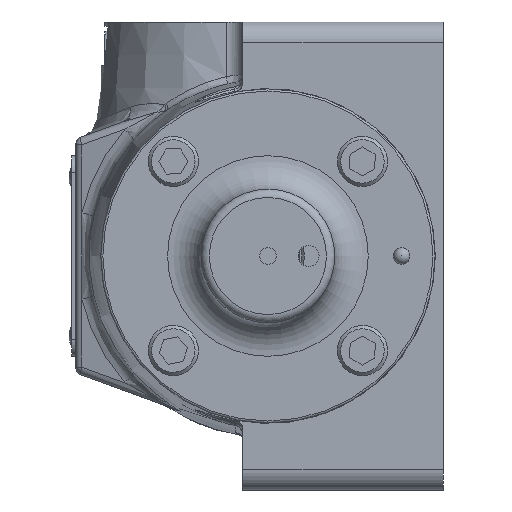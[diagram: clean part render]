
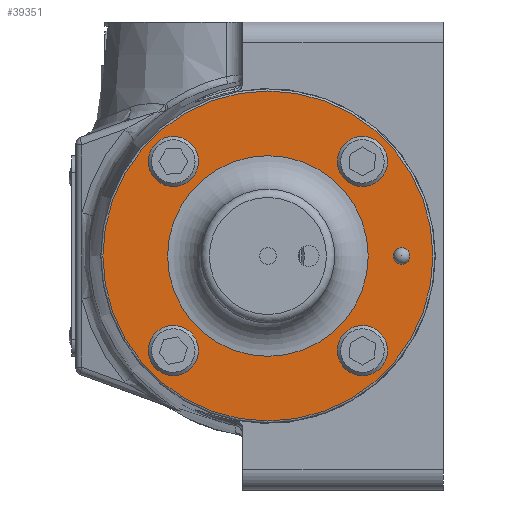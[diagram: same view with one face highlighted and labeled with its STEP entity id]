
A CAD part, left-side view. The second image highlights one B-rep face of the part: STEP entity #39351.
In plain terms, the highlighted planar face has unit normal (-1, 0, 0).
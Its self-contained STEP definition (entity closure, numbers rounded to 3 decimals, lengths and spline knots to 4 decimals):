
#2393=FACE_BOUND('',#6498,.T.);
#2394=FACE_BOUND('',#6499,.T.);
#2395=FACE_BOUND('',#6500,.T.);
#2396=FACE_BOUND('',#6501,.T.);
#2397=FACE_BOUND('',#6502,.T.);
#2398=FACE_BOUND('',#6503,.T.);
#2775=PLANE('',#42373);
#4101=FACE_OUTER_BOUND('',#6497,.T.);
#6497=EDGE_LOOP('',(#27910));
#6498=EDGE_LOOP('',(#27911));
#6499=EDGE_LOOP('',(#27912));
#6500=EDGE_LOOP('',(#27913));
#6501=EDGE_LOOP('',(#27914));
#6502=EDGE_LOOP('',(#27915));
#6503=EDGE_LOOP('',(#27916));
#8899=CIRCLE('',#42301,1.905);
#8908=CIRCLE('',#42315,3.1353);
#8930=CIRCLE('',#42363,0.1588);
#8935=CIRCLE('',#42374,0.4763);
#8936=CIRCLE('',#42375,0.4763);
#8937=CIRCLE('',#42376,0.4763);
#8938=CIRCLE('',#42377,0.4763);
#16159=VERTEX_POINT('',#66143);
#16166=VERTEX_POINT('',#66166);
#16206=VERTEX_POINT('',#66294);
#16212=VERTEX_POINT('',#66315);
#16213=VERTEX_POINT('',#66317);
#16214=VERTEX_POINT('',#66319);
#16215=VERTEX_POINT('',#66321);
#20388=EDGE_CURVE('',#16159,#16159,#8899,.T.);
#20399=EDGE_CURVE('',#16166,#16166,#8908,.T.);
#20460=EDGE_CURVE('',#16206,#16206,#8930,.T.);
#20469=EDGE_CURVE('',#16212,#16212,#8935,.T.);
#20470=EDGE_CURVE('',#16213,#16213,#8936,.T.);
#20471=EDGE_CURVE('',#16214,#16214,#8937,.T.);
#20472=EDGE_CURVE('',#16215,#16215,#8938,.T.);
#27910=ORIENTED_EDGE('',*,*,#20399,.F.);
#27911=ORIENTED_EDGE('',*,*,#20469,.T.);
#27912=ORIENTED_EDGE('',*,*,#20470,.T.);
#27913=ORIENTED_EDGE('',*,*,#20471,.T.);
#27914=ORIENTED_EDGE('',*,*,#20472,.T.);
#27915=ORIENTED_EDGE('',*,*,#20460,.T.);
#27916=ORIENTED_EDGE('',*,*,#20388,.F.);
#39351=ADVANCED_FACE('',(#4101,#2393,#2394,#2395,#2396,#2397,#2398),#2775,
 .F.);
#42301=AXIS2_PLACEMENT_3D('',#66145,#48189,#48190);
#42315=AXIS2_PLACEMENT_3D('',#66168,#48219,#48220);
#42363=AXIS2_PLACEMENT_3D('',#66295,#48354,#48355);
#42373=AXIS2_PLACEMENT_3D('',#66314,#48378,#48379);
#42374=AXIS2_PLACEMENT_3D('',#66316,#48380,#48381);
#42375=AXIS2_PLACEMENT_3D('',#66318,#48382,#48383);
#42376=AXIS2_PLACEMENT_3D('',#66320,#48384,#48385);
#42377=AXIS2_PLACEMENT_3D('',#66322,#48386,#48387);
#48189=DIRECTION('center_axis',(-1.,0.,0.));
#48190=DIRECTION('ref_axis',(0.,0.,
-1.));
#48219=DIRECTION('center_axis',(1.,0.,0.));
#48220=DIRECTION('ref_axis',(0.,0.,
-1.));
#48354=DIRECTION('center_axis',(1.,0.,0.));
#48355=DIRECTION('ref_axis',(0.,0.,
-1.));
#48378=DIRECTION('center_axis',(1.,0.,0.));
#48379=DIRECTION('ref_axis',(0.,0.,
-1.));
#48380=DIRECTION('center_axis',(1.,0.,0.));
#48381=DIRECTION('ref_axis',(0.,-0.2,-0.98));
#48382=DIRECTION('center_axis',(1.,0.,0.));
#48383=DIRECTION('ref_axis',(0.,-0.004,
-1.));
#48384=DIRECTION('center_axis',(1.,0.,0.));
#48385=DIRECTION('ref_axis',(0.,-0.488,-0.873));
#48386=DIRECTION('center_axis',(1.,0.,0.));
#48387=DIRECTION('ref_axis',(0.,-1.,-0.02));
#66143=CARTESIAN_POINT('',(-6.1074,0.,1.905));
#66145=CARTESIAN_POINT('Origin',(-6.1074,0.,0.));
#66166=CARTESIAN_POINT('',(-6.1074,0.,3.1353));
#66168=CARTESIAN_POINT('Origin',(-6.1074,0.,0.));
#66294=CARTESIAN_POINT('',(-6.1074,-2.54,-0.1587));
#66295=CARTESIAN_POINT('Origin',(-6.1074,-2.54,0.));
#66314=CARTESIAN_POINT('Origin',(-6.1074,0.,0.));
#66315=CARTESIAN_POINT('',(-6.1074,1.8912,-1.3294));
#66316=CARTESIAN_POINT('Origin',(-6.1074,1.7961,-1.7961));
#66317=CARTESIAN_POINT('',(-6.1074,1.798,2.2723));
#66318=CARTESIAN_POINT('Origin',(-6.1074,1.7961,1.7961));
#66319=CARTESIAN_POINT('',(-6.1074,-1.5638,2.2119));
#66320=CARTESIAN_POINT('Origin',(-6.1074,-1.7961,1.7961));
#66321=CARTESIAN_POINT('',(-6.1074,-1.3199,-1.7864));
#66322=CARTESIAN_POINT('Origin',(-6.1074,-1.7961,-1.7961));
